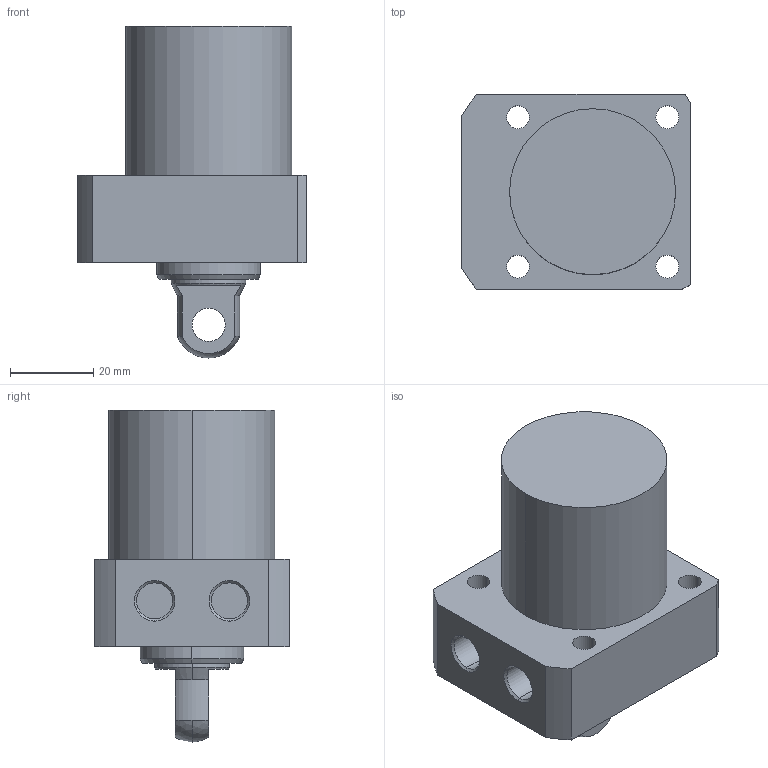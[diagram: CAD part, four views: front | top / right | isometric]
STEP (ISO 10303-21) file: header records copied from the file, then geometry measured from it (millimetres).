
FILE_DESCRIPTION (( 'STEP AP203' ), '1' );
FILE_NAME ('CLL-R040-CP-025.STEP', '2017-05-10T11:22:17', ( '' ), ( '' ), 'SwSTEP 2.0', 'SolidWorks 2015', '' );
FILE_SCHEMA (( 'CONFIG_CONTROL_DESIGN' ));
Length unit declared in the file: millimetre
Products named in the file (1): CLL-R040-CP-025
Bounding box: 55 x 47 x 80 mm (x, y, z)
Volume: 98928.9 mm3; surface area: 17021.1 mm2
Topology: 1 solids, 1 shells, 57 faces, 135 edges, 87 vertices
Faces by surface type: cylinder 29, plane 18, cone 8, sphere 2
Entity records: 1770 total; most frequent: DIRECTION 319, CARTESIAN_POINT 292, ORIENTED_EDGE 270, EDGE_CURVE 135, AXIS2_PLACEMENT_3D 130, VERTEX_POINT 87, EDGE_LOOP 74, CIRCLE 72
